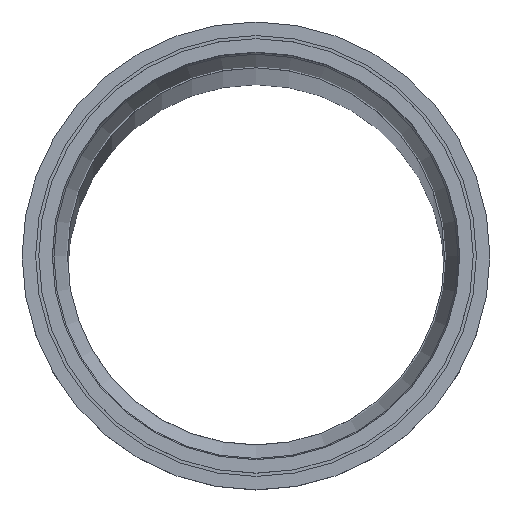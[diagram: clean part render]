
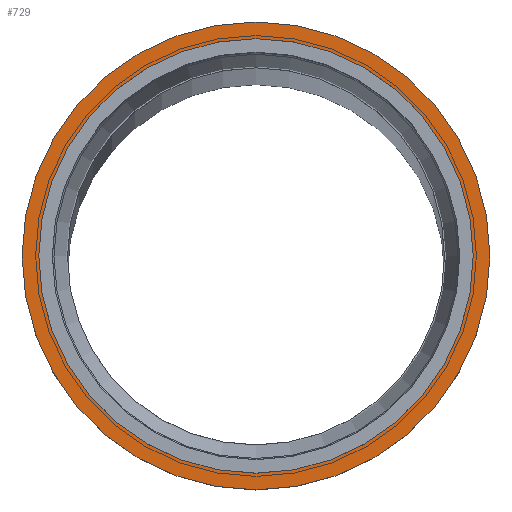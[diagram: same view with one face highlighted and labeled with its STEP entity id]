
A CAD part, top view. The second image highlights one B-rep face of the part: STEP entity #729.
In plain terms, the highlighted planar face has unit normal (0, 0, 1) as drawn and (1, 0, 0) by its records, which use the part's own axes.
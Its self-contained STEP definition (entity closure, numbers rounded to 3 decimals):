
#110=PLANE($,#811);
#138=FACE_BOUND($,#249,.T.);
#139=FACE_BOUND($,#250,.T.);
#249=EDGE_LOOP($,(#620));
#250=EDGE_LOOP($,(#621));
#299=CIRCLE($,#810,72.475);
#300=CIRCLE($,#812,67.3);
#370=VERTEX_POINT($,#1943);
#371=VERTEX_POINT($,#1946);
#457=EDGE_CURVE($,#370,#370,#299,.T.);
#458=EDGE_CURVE($,#371,#371,#300,.T.);
#620=ORIENTED_EDGE($,*,*,#458,.F.);
#621=ORIENTED_EDGE($,*,*,#457,.T.);
#729=ADVANCED_FACE($,(#138,#139),#110,.T.);
#810=AXIS2_PLACEMENT_3D($,#1944,#967,#968);
#811=AXIS2_PLACEMENT_3D($,#1945,#969,#970);
#812=AXIS2_PLACEMENT_3D($,#1947,#971,#972);
#967=DIRECTION('center_axis',(1.,0.,0.));
#968=DIRECTION('ref_axis',(0.,1.,0.));
#969=DIRECTION('center_axis',(1.,0.,0.));
#970=DIRECTION('ref_axis',(0.,0.,-1.));
#971=DIRECTION('center_axis',(1.,0.,0.));
#972=DIRECTION('ref_axis',(0.,1.,0.));
#1943=CARTESIAN_POINT('',(82.7,72.475,0.));
#1944=CARTESIAN_POINT('Origin',(82.7,0.,0.));
#1945=CARTESIAN_POINT('Origin',(82.7,69.888,0.));
#1946=CARTESIAN_POINT('',(82.7,67.3,0.));
#1947=CARTESIAN_POINT('Origin',(82.7,0.,0.));
